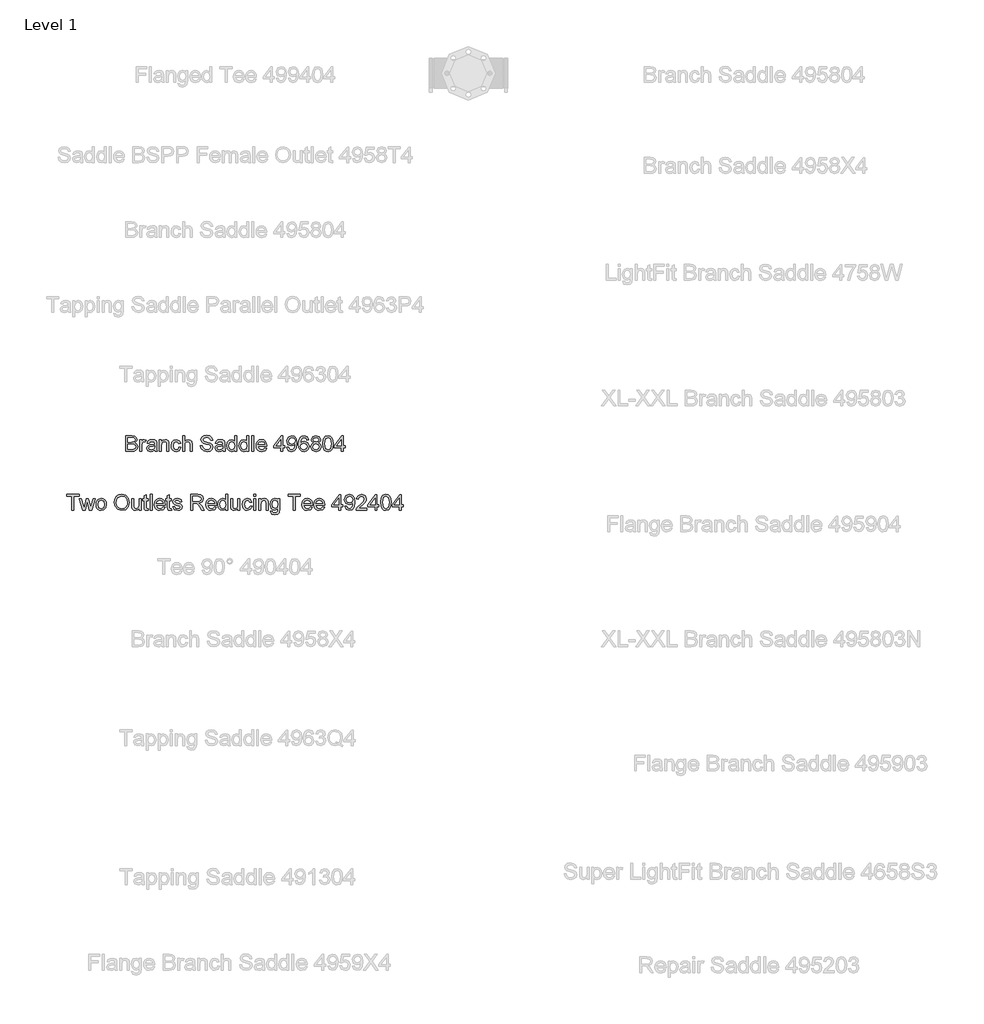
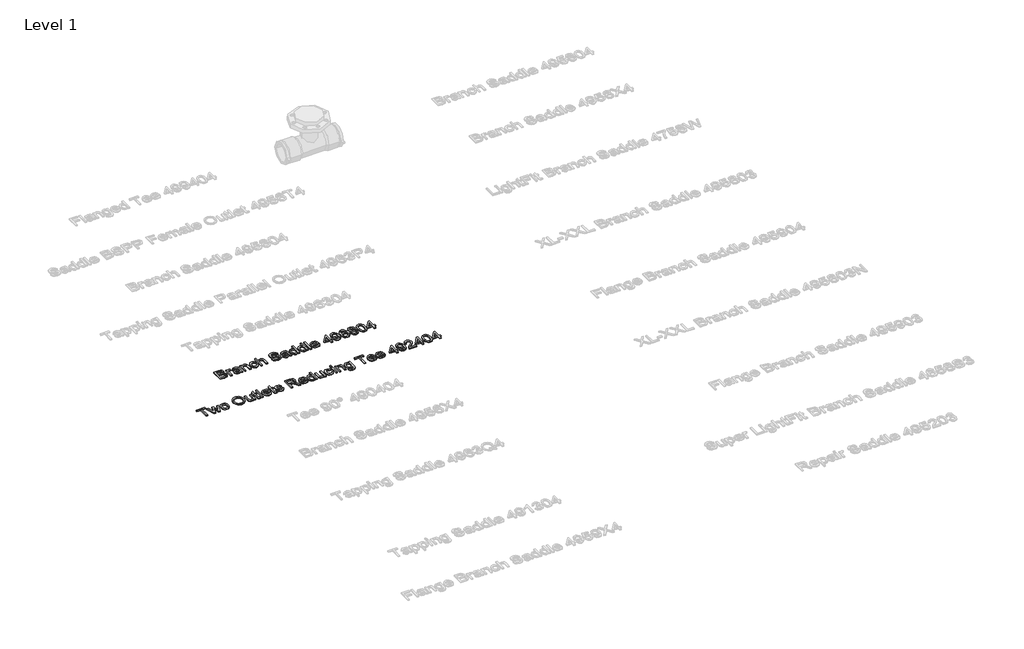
# One storey, part 6 of 41: 2 proxies.
"""IFC4 building model written with IfcOpenShell, lengths in millimetres."""

from ifc_helpers import new_model, si_unit, origin, origin_with_axes, place, context, project, spatial, polyline, outline, extrude, element, save

model = new_model("IFC4")

# Units and contexts
model_context = context("Model", 3, world=origin())
ifc_project = project(units=[si_unit("LENGTHUNIT", "METRE", prefix="MILLI")], contexts=[model_context])

# Site, building, storey
site = spatial("IfcSite", under=ifc_project)
building = spatial("IfcBuilding", under=site)
storey = spatial("IfcBuildingStorey", under=building, Name="Level 1", Elevation=0.0)

# Proxies
placement = place(None, origin())
element("IfcBuildingElementProxy", 1, Name="100 mm Arial", ObjectType="100 mm Arial", at=placement, inside=storey, context=model_context, shape_type="SweptSolid", body=[
    extrude(outline(polyline([(6650.4423841, 3557.5779735), (6650.4423841, 3616.6548966), (6672.9856533, 3616.6548966), (6684.0265187, 3614.9169158), (6690.5457495, 3609.5731658), (6692.9039226, 3602.0154735), (6690.9207495, 3595.1140312), (6684.927961, 3589.8856658), (6692.2044033, 3584.3760505), (6694.7500764, 3575.1885505), (6693.0120956, 3567.2486466), (6688.7068072, 3561.5948005), (6682.2813264, 3558.5948005), (6672.8125764, 3557.5779735), (6650.4423841, 3557.5779735)]), holes=[polyline([(6657.8269995, 3564.9625889), (6672.9712303, 3564.9625889), (6678.4519995, 3565.2510505), (6683.0890187, 3566.8592235), (6686.1611341, 3570.1404735), (6687.365461, 3575.1164351), (6685.9519995, 3580.8568197), (6681.3726726, 3584.2823005), (6672.2500764, 3585.2702812), (6657.8269995, 3585.2702812), (6657.8269995, 3564.9625889)]), polyline([(6657.8269995, 3592.6548966), (6671.3125764, 3592.6548966), (6679.1875764, 3593.289512), (6683.9255572, 3596.0226851), (6685.5193072, 3600.8327812), (6684.0337303, 3605.6500889), (6679.7789226, 3608.4986466), (6670.288538, 3609.2702812), (6657.8269995, 3609.2702812), (6657.8269995, 3592.6548966)])]), origin_with_axes(), (0.0, 0.0, 1.0), 5.0),
    extrude(outline(polyline([(6703.9808456, 3557.5779735), (6703.9808456, 3600.9625889), (6710.4423841, 3600.9625889), (6710.4423841, 3594.5443197), (6715.0289226, 3600.4577812), (6719.6443072, 3601.8856658), (6727.0577687, 3599.6068197), (6724.5914226, 3592.9866274), (6719.3991149, 3594.5010505), (6715.2236341, 3593.0443197), (6712.5625764, 3589.0058582), (6711.365461, 3580.3808582), (6711.365461, 3557.5779735), (6703.9808456, 3557.5779735)])), origin_with_axes(), (0.0, 0.0, 1.0), 5.0),
    extrude(outline(polyline([(6759.365461, 3563.1164351), (6752.2044033, 3558.1116274), (6744.2933456, 3556.6548966), (6733.569788, 3560.1597043), (6729.8269995, 3569.1164351), (6731.240461, 3574.9577812), (6734.9544033, 3579.1981658), (6740.1250764, 3581.6212428), (6746.5144995, 3582.7318197), (6759.3221918, 3585.2702812), (6759.365461, 3586.914512), (6757.3318072, 3592.3664351), (6749.1683456, 3594.5010505), (6741.6971918, 3593.0803774), (6738.1346918, 3588.039512), (6730.7500764, 3588.9625889), (6733.944788, 3596.1741274), (6740.3774803, 3600.4000889), (6750.1202687, 3601.8856658), (6759.069788, 3600.5731658), (6764.1250764, 3597.2774928), (6766.3894995, 3592.2654735), (6766.7500764, 3585.8039351), (6766.7500764, 3576.6164351), (6767.1250764, 3563.7871082), (6768.5962303, 3557.5779735), (6761.2116149, 3557.5779735), (6759.365461, 3563.1164351)]), holes=[polyline([(6759.365461, 3577.8856658), (6747.4519995, 3575.6212428), (6741.0986341, 3574.4241274), (6738.2212303, 3572.477012), (6737.2116149, 3569.6356658), (6739.4111341, 3565.6404735), (6745.865461, 3564.039512), (6753.3366149, 3565.8063389), (6758.1539226, 3570.0827812), (6759.3221918, 3575.7943197), (6759.365461, 3577.8856658)])]), origin_with_axes(), (0.0, 0.0, 1.0), 5.0),
    extrude(outline(polyline([(6776.9039226, 3557.5779735), (6776.9039226, 3600.9625889), (6784.288538, 3600.9625889), (6784.288538, 3594.9048966), (6789.9351726, 3600.1404735), (6797.6443072, 3601.8856658), (6804.6178649, 3600.4794158), (6809.3774803, 3596.7871082), (6811.5914226, 3591.3568197), (6811.9808456, 3584.2173966), (6811.9808456, 3557.5779735), (6804.5962303, 3557.5779735), (6804.5962303, 3583.2222043), (6803.7452687, 3589.7558582), (6800.7380572, 3593.2101851), (6795.6683456, 3594.5010505), (6787.6563264, 3591.602012), (6784.288538, 3580.5972043), (6784.288538, 3557.5779735), (6776.9039226, 3557.5779735)])), origin_with_axes(), (0.0, 0.0, 1.0), 5.0),
    extrude(outline(polyline([(6849.8269995, 3573.2702812), (6857.2116149, 3572.3472043), (6851.2837303, 3560.8159543), (6839.5721918, 3556.6548966), (6831.7170235, 3558.1062187), (6825.5745956, 3562.4601851), (6821.6100524, 3569.5256899), (6820.288538, 3579.1116274), (6822.5457495, 3591.3784543), (6829.4255572, 3599.2606658), (6839.4712303, 3601.8856658), (6850.6995956, 3598.2798966), (6856.288538, 3588.039512), (6848.9039226, 3587.1164351), (6845.4784418, 3592.6476851), (6839.5289226, 3594.5010505), (6830.9688264, 3590.852012), (6827.6731533, 3579.3135505), (6830.896711, 3567.6669158), (6839.3269995, 3564.039512), (6846.2861341, 3566.3039351), (6849.8269995, 3573.2702812)])), origin_with_axes(), (0.0, 0.0, 1.0), 5.0),
    extrude(outline(polyline([(6863.6731533, 3557.5779735), (6863.6731533, 3616.6548966), (6871.0577687, 3616.6548966), (6871.0577687, 3594.9337428), (6876.8161822, 3600.1476851), (6883.9087303, 3601.8856658), (6892.2019995, 3599.9890312), (6897.2356533, 3594.7462428), (6898.7500764, 3585.039512), (6898.7500764, 3557.5779735), (6891.365461, 3557.5779735), (6891.365461, 3584.2750889), (6889.0144995, 3592.0635505), (6882.351038, 3594.5010505), (6876.3005572, 3592.8568197), (6872.2620956, 3588.4000889), (6871.0577687, 3580.6260505), (6871.0577687, 3557.5779735), (6863.6731533, 3557.5779735)])), origin_with_axes(), (0.0, 0.0, 1.0), 5.0),
    extrude(outline(polyline([(6930.1346918, 3577.8856658), (6937.5193072, 3577.8856658), (6939.8991149, 3570.4938389), (6945.7116149, 3565.820762), (6954.5673841, 3564.039512), (6962.2837303, 3565.3880697), (6967.2669033, 3569.0948005), (6968.9039226, 3574.0491274), (6967.677961, 3578.6573005), (6962.6587303, 3582.0106658), (6951.9063264, 3584.8303774), (6940.3318072, 3588.4722043), (6934.0505572, 3593.9673966), (6931.9808456, 3601.3087428), (6934.5409418, 3609.6669158), (6942.0193072, 3615.5659543), (6952.9664226, 3617.5779735), (6964.6491149, 3615.4722043), (6972.4375764, 3609.2847043), (6975.365461, 3600.039512), (6967.9808456, 3600.039512), (6963.7981533, 3607.6260505), (6953.2548841, 3610.1933582), (6942.6827687, 3607.6548966), (6939.365461, 3601.5250889), (6941.7164226, 3596.4048966), (6953.7741149, 3592.2798966), (6966.8414226, 3588.5731658), (6973.9880572, 3582.5875889), (6976.288538, 3574.2366274), (6973.6419033, 3565.4024928), (6966.0265187, 3558.9553774), (6954.8558456, 3556.6548966), (6941.6659418, 3559.1356658), (6933.3221918, 3566.6068197), (6930.1346918, 3577.8856658)])), origin_with_axes(), (0.0, 0.0, 1.0), 5.0),
    extrude(outline(polyline([(7014.1346918, 3563.1164351), (7006.9736341, 3558.1116274), (6999.0625764, 3556.6548966), (6988.3390187, 3560.1597043), (6984.5962303, 3569.1164351), (6986.0096918, 3574.9577812), (6989.7236341, 3579.1981658), (6994.8943072, 3581.6212428), (7001.2837303, 3582.7318197), (7014.0914226, 3585.2702812), (7014.1346918, 3586.914512), (7012.101038, 3592.3664351), (7003.9375764, 3594.5010505), (6996.4664226, 3593.0803774), (6992.9039226, 3588.039512), (6985.5193072, 3588.9625889), (6988.7140187, 3596.1741274), (6995.146711, 3600.4000889), (7004.8894995, 3601.8856658), (7013.8390187, 3600.5731658), (7018.8943072, 3597.2774928), (7021.1587303, 3592.2654735), (7021.5193072, 3585.8039351), (7021.5193072, 3576.6164351), (7021.8943072, 3563.7871082), (7023.365461, 3557.5779735), (7015.9808456, 3557.5779735), (7014.1346918, 3563.1164351)]), holes=[polyline([(7014.1346918, 3577.8856658), (7002.2212303, 3575.6212428), (6995.8678649, 3574.4241274), (6992.990461, 3572.477012), (6991.9808456, 3569.6356658), (6994.1803649, 3565.6404735), (7000.6346918, 3564.039512), (7008.1058456, 3565.8063389), (7012.9231533, 3570.0827812), (7014.0914226, 3575.7943197), (7014.1346918, 3577.8856658)])]), origin_with_axes(), (0.0, 0.0, 1.0), 5.0),
    extrude(outline(polyline([(7058.4423841, 3557.5779735), (7058.4423841, 3564.5443197), (7053.5565668, 3558.6272524), (7046.802961, 3556.6548966), (7037.6587303, 3559.5106658), (7031.1971918, 3567.4794158), (7028.9039226, 3579.227012), (7031.0169033, 3590.9818197), (7037.3486341, 3599.0731658), (7046.7741149, 3601.8856658), (7053.5818072, 3599.8736466), (7058.4423841, 3594.6452812), (7058.4423841, 3616.6548966), (7065.8269995, 3616.6548966), (7065.8269995, 3557.5779735), (7058.4423841, 3557.5779735)]), holes=[polyline([(7036.288538, 3579.2558582), (7039.6202687, 3567.8255697), (7047.4808456, 3564.039512), (7055.2476726, 3567.6524928), (7058.4423841, 3578.6933582), (7055.1899803, 3590.6789351), (7047.177961, 3594.5010505), (7039.4039226, 3590.8303774), (7036.288538, 3579.2558582)])]), origin_with_axes(), (0.0, 0.0, 1.0), 5.0),
    extrude(outline(polyline([(7103.6731533, 3557.5779735), (7103.6731533, 3564.5443197), (7098.787336, 3558.6272524), (7092.0337303, 3556.6548966), (7082.8894995, 3559.5106658), (7076.427961, 3567.4794158), (7074.1346918, 3579.227012), (7076.2476726, 3590.9818197), (7082.5794033, 3599.0731658), (7092.0048841, 3601.8856658), (7098.8125764, 3599.8736466), (7103.6731533, 3594.6452812), (7103.6731533, 3616.6548966), (7111.0577687, 3616.6548966), (7111.0577687, 3557.5779735), (7103.6731533, 3557.5779735)]), holes=[polyline([(7081.5193072, 3579.2558582), (7084.851038, 3567.8255697), (7092.7116149, 3564.039512), (7100.4784418, 3567.6524928), (7103.6731533, 3578.6933582), (7100.4207495, 3590.6789351), (7092.4087303, 3594.5010505), (7084.6346918, 3590.8303774), (7081.5193072, 3579.2558582)])]), origin_with_axes(), (0.0, 0.0, 1.0), 5.0),
    extrude(outline(polyline([(7122.1346918, 3557.5779735), (7122.1346918, 3616.6548966), (7129.5193072, 3616.6548966), (7129.5193072, 3557.5779735), (7122.1346918, 3557.5779735)])), origin_with_axes(), (0.0, 0.0, 1.0), 5.0),
    extrude(outline(polyline([(7170.9712303, 3570.5010505), (7178.2116149, 3569.5779735), (7171.4399803, 3560.0443197), (7158.8269995, 3556.6548966), (7150.162336, 3558.117036), (7143.4952687, 3562.5034543), (7139.2440668, 3569.5292957), (7137.8269995, 3578.9097043), (7139.2584899, 3588.6056178), (7143.552961, 3595.8568197), (7150.1298841, 3600.3784543), (7158.4087303, 3601.8856658), (7166.4297639, 3600.3820601), (7172.8390187, 3595.8712428), (7177.0415428, 3588.6344639), (7178.4423841, 3578.9529735), (7178.3991149, 3576.9625889), (7145.2116149, 3576.9625889), (7149.459211, 3567.3712428), (7158.9712303, 3564.039512), (7166.2116149, 3565.5827812), (7170.9712303, 3570.5010505)]), holes=[polyline([(7145.2116149, 3584.3472043), (7171.0577687, 3584.3472043), (7168.101038, 3591.039512), (7158.3798841, 3594.5010505), (7149.2861341, 3591.7390312), (7145.2116149, 3584.3472043)])]), origin_with_axes(), (0.0, 0.0, 1.0), 5.0),
    extrude(outline(polyline([(7231.0577687, 3557.5779735), (7231.0577687, 3571.4241274), (7204.288538, 3571.4241274), (7204.288538, 3578.8087428), (7232.9039226, 3615.7318197), (7238.4423841, 3615.7318197), (7238.4423841, 3578.8087428), (7245.8269995, 3578.8087428), (7245.8269995, 3571.4241274), (7238.4423841, 3571.4241274), (7238.4423841, 3557.5779735), (7231.0577687, 3557.5779735)]), holes=[polyline([(7231.0577687, 3578.8087428), (7231.0577687, 3601.6260505), (7213.3750764, 3578.8087428), (7231.0577687, 3578.8087428)])]), origin_with_axes(), (0.0, 0.0, 1.0), 5.0),
    extrude(outline(polyline([(7253.2116149, 3572.3472043), (7260.5962303, 3573.2702812), (7263.913538, 3566.2246082), (7270.2019995, 3564.039512), (7276.1803649, 3565.445762), (7280.2332495, 3569.2029735), (7282.6491149, 3575.6212428), (7283.7164226, 3584.1885505), (7277.7669033, 3580.0347043), (7269.6683456, 3577.8856658), (7257.3294033, 3583.1356658), (7252.288538, 3596.9673966), (7257.5745956, 3611.2462428), (7270.8221918, 3616.6548966), (7281.3438264, 3613.5683582), (7288.584211, 3604.7702812), (7291.0577687, 3588.2414351), (7288.5914226, 3570.3063389), (7281.257288, 3560.1452812), (7269.8558456, 3556.6548966), (7258.5048841, 3560.7726851), (7253.2116149, 3572.3472043)]), holes=[polyline([(7283.6731533, 3597.1404735), (7280.4856533, 3605.9962428), (7272.0193072, 3609.2702812), (7263.1346918, 3605.7438389), (7259.6731533, 3596.6068197), (7262.9471918, 3588.4217235), (7271.8173841, 3585.2702812), (7280.334211, 3588.4217235), (7283.6731533, 3597.1404735)])]), origin_with_axes(), (0.0, 0.0, 1.0), 5.0),
    extrude(outline(polyline([(7335.365461, 3600.9625889), (7327.9808456, 3600.039512), (7325.1827687, 3606.1981658), (7317.7837303, 3609.2702812), (7311.1202687, 3607.4818197), (7306.0794033, 3600.7678774), (7303.9808456, 3587.6068197), (7310.4928649, 3593.4986466), (7318.5625764, 3595.4241274), (7331.1106533, 3590.1597043), (7336.288538, 3576.5587428), (7333.851038, 3566.3688389), (7327.1443072, 3559.1573005), (7317.4664226, 3556.6548966), (7309.0884178, 3558.3135505), (7302.4159418, 3563.289512), (7298.0511581, 3572.0731658), (7296.5962303, 3585.1548966), (7298.2116149, 3599.8628293), (7303.0577687, 3609.9193197), (7309.6743553, 3614.9710024), (7318.2452687, 3616.6548966), (7329.913538, 3612.4866274), (7335.365461, 3600.9625889)]), holes=[polyline([(7303.9808456, 3576.6741274), (7305.6899803, 3570.2774928), (7310.2332495, 3565.633262), (7316.8894995, 3564.039512), (7325.5938264, 3567.3423966), (7328.9039226, 3576.3135505), (7325.6370956, 3584.9024928), (7316.5866149, 3588.039512), (7307.6515187, 3584.9024928), (7303.9808456, 3576.6741274)])]), origin_with_axes(), (0.0, 0.0, 1.0), 5.0),
    extrude(outline(polyline([(7353.5096918, 3590.1164351), (7346.7813264, 3594.7029735), (7344.5962303, 3601.8423966), (7349.3558456, 3612.3856658), (7362.0337303, 3616.6548966), (7374.8269995, 3612.2847043), (7379.6731533, 3601.6404735), (7377.5169033, 3594.6813389), (7370.976038, 3590.1164351), (7378.8294033, 3584.3255697), (7381.5193072, 3574.7702812), (7376.1827687, 3561.8760505), (7362.1346918, 3556.6548966), (7348.0866149, 3561.8976851), (7342.7500764, 3574.9722043), (7345.5481533, 3584.7510505), (7353.5096918, 3590.1164351)]), holes=[polyline([(7351.9808456, 3601.6260505), (7354.5986341, 3595.8279735), (7362.2212303, 3593.5779735), (7369.6923841, 3595.8135505), (7372.288538, 3601.2943197), (7369.6058456, 3606.9698005), (7362.1346918, 3609.2702812), (7354.6419033, 3607.0202812), (7351.9808456, 3601.6260505)]), polyline([(7350.1346918, 3575.2318197), (7351.3678649, 3569.6717235), (7355.7308456, 3565.5106658), (7362.1923841, 3564.039512), (7370.990461, 3567.133262), (7374.1346918, 3575.0010505), (7370.8894995, 3583.0202812), (7361.9471918, 3586.1933582), (7353.257288, 3583.0635505), (7350.1346918, 3575.2318197)])]), origin_with_axes(), (0.0, 0.0, 1.0), 5.0),
    extrude(outline(polyline([(7387.9808456, 3586.6404735), (7390.1515187, 3603.6380697), (7396.5986341, 3613.4385505), (7407.365461, 3616.6548966), (7415.990461, 3614.7510505), (7421.9471918, 3609.2630697), (7425.4087303, 3600.5226851), (7426.7500764, 3586.6404735), (7424.601038, 3569.7149928), (7418.1755572, 3559.8928774), (7407.365461, 3556.6548966), (7399.6923841, 3558.0611466), (7393.865461, 3562.2798966), (7389.4519995, 3572.2714832), (7387.9808456, 3586.6404735)]), holes=[polyline([(7395.365461, 3586.6548966), (7398.8269995, 3568.3159543), (7407.365461, 3564.039512), (7415.9039226, 3568.3303774), (7419.365461, 3586.6548966), (7416.0193072, 3604.7847043), (7407.2789226, 3609.2702812), (7398.9423841, 3605.3183582), (7395.365461, 3586.6548966)])]), origin_with_axes(), (0.0, 0.0, 1.0), 5.0),
    extrude(outline(polyline([(7457.2116149, 3557.5779735), (7457.2116149, 3571.4241274), (7430.4423841, 3571.4241274), (7430.4423841, 3578.8087428), (7459.0577687, 3615.7318197), (7464.5962303, 3615.7318197), (7464.5962303, 3578.8087428), (7471.9808456, 3578.8087428), (7471.9808456, 3571.4241274), (7464.5962303, 3571.4241274), (7464.5962303, 3557.5779735), (7457.2116149, 3557.5779735)]), holes=[polyline([(7457.2116149, 3578.8087428), (7457.2116149, 3601.6260505), (7439.5289226, 3578.8087428), (7457.2116149, 3578.8087428)])]), origin_with_axes(), (0.0, 0.0, 1.0), 5.0),
])
element("IfcBuildingElementProxy", 2, Name="100 mm Arial", ObjectType="100 mm Arial", at=placement, inside=storey, context=model_context, shape_type="SweptSolid", body=[
    extrude(outline(polyline([(6449.2116149, 3337.5779735), (6449.2116149, 3389.2702812), (6429.8269995, 3389.2702812), (6429.8269995, 3396.6548966), (6475.9808456, 3396.6548966), (6475.9808456, 3389.2702812), (6456.5962303, 3389.2702812), (6456.5962303, 3337.5779735), (6449.2116149, 3337.5779735)])), origin_with_axes(), (0.0, 0.0, 1.0), 5.0),
    extrude(outline(polyline([(6490.5625764, 3337.5779735), (6477.365461, 3380.9625889), (6485.038538, 3380.9625889), (6492.5241149, 3355.6500889), (6494.7596918, 3346.6068197), (6496.5914226, 3355.3183582), (6502.5481533, 3380.9625889), (6511.3462303, 3380.9625889), (6517.2741149, 3355.3904735), (6518.9039226, 3347.5010505), (6521.240461, 3355.8231658), (6528.740461, 3380.9625889), (6536.4423841, 3380.9625889), (6523.1443072, 3337.5779735), (6514.2164226, 3337.5779735), (6508.5481533, 3363.0202812), (6506.9039226, 3370.9529735), (6499.5914226, 3337.5779735), (6490.5625764, 3337.5779735)])), origin_with_axes(), (0.0, 0.0, 1.0), 5.0),
    extrude(outline(polyline([(6539.6731533, 3359.2702812), (6541.2705091, 3369.7306178), (6546.0625764, 3377.0827812), (6559.0721918, 3381.8856658), (6566.8300043, 3380.4235264), (6573.0265187, 3376.0371082), (6577.0884178, 3369.0725649), (6578.4423841, 3359.8760505), (6576.0481533, 3346.7366274), (6569.0745956, 3339.3015312), (6559.0721918, 3336.6548966), (6551.2206293, 3338.1116274), (6545.0313264, 3342.4818197), (6541.0126966, 3349.5923966), (6539.6731533, 3359.2702812)]), holes=[polyline([(6547.0577687, 3359.2847043), (6550.476038, 3347.8399928), (6559.0721918, 3344.039512), (6567.6394995, 3347.8616274), (6571.0577687, 3359.5154735), (6567.6178649, 3370.7005697), (6559.0721918, 3374.5010505), (6550.476038, 3370.7149928), (6547.0577687, 3359.2847043)])]), origin_with_axes(), (0.0, 0.0, 1.0), 5.0),
    extrude(outline(polyline([(6607.9808456, 3366.3375889), (6609.9495956, 3379.4012908), (6615.8558456, 3389.2847043), (6624.8738745, 3395.5046562), (6636.177961, 3397.5779735), (6650.8750764, 3393.6837428), (6660.8558456, 3382.8231658), (6664.288538, 3367.0154735), (6660.6755572, 3350.9914351), (6650.4351726, 3340.289512), (6636.1346918, 3336.6548966), (6621.2789226, 3340.6717235), (6611.3558456, 3351.633262), (6607.9808456, 3366.3375889)]), holes=[polyline([(6615.365461, 3366.2654735), (6616.8420235, 3357.023887), (6621.271711, 3349.9818197), (6627.9297639, 3345.5250889), (6636.0914226, 3344.039512), (6644.3720716, 3345.539512), (6651.0409418, 3350.039512), (6655.4381774, 3357.2979255), (6656.9039226, 3367.0731658), (6654.3943072, 3379.2606658), (6647.0601726, 3387.3303774), (6636.2212303, 3390.1933582), (6621.5241149, 3384.6765312), (6616.9051245, 3377.3153533), (6615.365461, 3366.2654735)])]), origin_with_axes(), (0.0, 0.0, 1.0), 5.0),
    extrude(outline(polyline([(6701.2116149, 3337.5779735), (6701.2116149, 3345.0347043), (6695.427961, 3338.7498485), (6687.8846918, 3336.6548966), (6680.9399803, 3338.1260505), (6676.1515187, 3341.8183582), (6673.9519995, 3347.2558582), (6673.5193072, 3354.1212428), (6673.5193072, 3380.9625889), (6680.9039226, 3380.9625889), (6680.9039226, 3357.5972043), (6681.351038, 3350.0683582), (6684.271711, 3345.6476851), (6689.7741149, 3344.039512), (6695.9399803, 3345.6837428), (6700.0144995, 3350.1621082), (6701.2116149, 3358.3904735), (6701.2116149, 3380.9625889), (6708.5962303, 3380.9625889), (6708.5962303, 3337.5779735), (6701.2116149, 3337.5779735)])), origin_with_axes(), (0.0, 0.0, 1.0), 5.0),
    extrude(outline(polyline([(6734.4423841, 3343.7366274), (6735.365461, 3337.3616274), (6729.8414226, 3336.6548966), (6723.6539226, 3337.8808582), (6720.5673841, 3341.0972043), (6719.6731533, 3349.477012), (6719.6731533, 3373.5779735), (6714.1346918, 3373.5779735), (6714.1346918, 3380.9625889), (6719.6731533, 3380.9625889), (6719.6731533, 3391.5058582), (6727.0577687, 3395.8472043), (6727.0577687, 3380.9625889), (6734.4423841, 3380.9625889), (6734.4423841, 3373.5779735), (6727.0577687, 3373.5779735), (6727.0577687, 3349.6933582), (6727.4471918, 3345.8856658), (6728.709211, 3344.5371082), (6731.226038, 3344.039512), (6734.4423841, 3343.7366274)])), origin_with_axes(), (0.0, 0.0, 1.0), 5.0),
    extrude(outline(polyline([(6741.8269995, 3337.5779735), (6741.8269995, 3396.6548966), (6749.2116149, 3396.6548966), (6749.2116149, 3337.5779735), (6741.8269995, 3337.5779735)])), origin_with_axes(), (0.0, 0.0, 1.0), 5.0),
    extrude(outline(polyline([(6790.663538, 3350.5010505), (6797.9039226, 3349.5779735), (6791.132288, 3340.0443197), (6778.5193072, 3336.6548966), (6769.8546437, 3338.117036), (6763.1875764, 3342.5034543), (6758.9363745, 3349.5292957), (6757.5193072, 3358.9097043), (6758.9507976, 3368.6056178), (6763.2452687, 3375.8568197), (6769.8221918, 3380.3784543), (6778.101038, 3381.8856658), (6786.1220716, 3380.3820601), (6792.5313264, 3375.8712428), (6796.7338505, 3368.6344639), (6798.1346918, 3358.9529735), (6798.0914226, 3356.9625889), (6764.9039226, 3356.9625889), (6769.1515187, 3347.3712428), (6778.663538, 3344.039512), (6785.9039226, 3345.5827812), (6790.663538, 3350.5010505)]), holes=[polyline([(6764.9039226, 3364.3472043), (6790.7500764, 3364.3472043), (6787.7933456, 3371.039512), (6778.0721918, 3374.5010505), (6768.9784418, 3371.7390312), (6764.9039226, 3364.3472043)])]), origin_with_axes(), (0.0, 0.0, 1.0), 5.0),
    extrude(outline(polyline([(6821.2116149, 3343.7366274), (6822.1346918, 3337.3616274), (6816.6106533, 3336.6548966), (6810.4231533, 3337.8808582), (6807.3366149, 3341.0972043), (6806.4423841, 3349.477012), (6806.4423841, 3373.5779735), (6800.9039226, 3373.5779735), (6800.9039226, 3380.9625889), (6806.4423841, 3380.9625889), (6806.4423841, 3391.5058582), (6813.8269995, 3395.8472043), (6813.8269995, 3380.9625889), (6821.2116149, 3380.9625889), (6821.2116149, 3373.5779735), (6813.8269995, 3373.5779735), (6813.8269995, 3349.6933582), (6814.2164226, 3345.8856658), (6815.4784418, 3344.5371082), (6817.9952687, 3344.039512), (6821.2116149, 3343.7366274)])), origin_with_axes(), (0.0, 0.0, 1.0), 5.0),
    extrude(outline(polyline([(6825.8269995, 3350.5010505), (6833.2116149, 3351.4241274), (6836.6298841, 3345.9433582), (6844.4616149, 3344.039512), (6851.990461, 3345.7847043), (6854.4423841, 3349.8808582), (6851.976038, 3353.1981658), (6844.3750764, 3355.3039351), (6833.2548841, 3358.9169158), (6828.4015187, 3363.1356658), (6826.7500764, 3369.0923966), (6828.0769995, 3374.5948005), (6831.6971918, 3378.7991274), (6836.3919033, 3380.9842235), (6842.7452687, 3381.8856658), (6851.7308456, 3380.4361466), (6857.4423841, 3376.5130697), (6859.9808456, 3369.8856658), (6852.5962303, 3368.9625889), (6849.819788, 3373.0371082), (6843.3221918, 3374.5010505), (6836.2548841, 3373.102012), (6834.1346918, 3369.8423966), (6835.0144995, 3367.6933582), (6837.7693072, 3366.0635505), (6844.1298841, 3364.4914351), (6854.9688264, 3361.0154735), (6860.0024803, 3357.0779735), (6861.8269995, 3350.6597043), (6859.6851726, 3343.5923966), (6853.5048841, 3338.4649928), (6844.3606533, 3336.6548966), (6831.4808456, 3340.1452812), (6825.8269995, 3350.5010505)])), origin_with_axes(), (0.0, 0.0, 1.0), 5.0),
    extrude(outline(polyline([(6894.1346918, 3337.5779735), (6894.1346918, 3396.6548966), (6919.5914226, 3396.6548966), (6931.4111341, 3395.0611466), (6937.8726726, 3389.4217235), (6940.288538, 3380.4866274), (6936.2861341, 3369.8423966), (6923.9183456, 3364.3472043), (6928.115461, 3361.1885505), (6934.101038, 3353.5875889), (6943.9519995, 3337.5779735), (6935.3702687, 3337.5779735), (6927.6827687, 3349.8231658), (6922.1298841, 3357.9289351), (6918.2284418, 3361.758262), (6914.7164226, 3363.164512), (6910.4327687, 3363.4241274), (6901.5193072, 3363.4241274), (6901.5193072, 3337.5779735), (6894.1346918, 3337.5779735)]), holes=[polyline([(6901.5193072, 3370.8087428), (6918.0481533, 3370.8087428), (6926.4784418, 3371.8544158), (6931.2669033, 3375.2005697), (6932.9039226, 3380.2125889), (6929.7813264, 3386.7173966), (6919.9087303, 3389.2702812), (6901.5193072, 3389.2702812), (6901.5193072, 3370.8087428)])]), origin_with_axes(), (0.0, 0.0, 1.0), 5.0),
    extrude(outline(polyline([(6982.663538, 3350.5010505), (6989.9039226, 3349.5779735), (6983.132288, 3340.0443197), (6970.5193072, 3336.6548966), (6961.8546437, 3338.117036), (6955.1875764, 3342.5034543), (6950.9363745, 3349.5292957), (6949.5193072, 3358.9097043), (6950.9507976, 3368.6056178), (6955.2452687, 3375.8568197), (6961.8221918, 3380.3784543), (6970.101038, 3381.8856658), (6978.1220716, 3380.3820601), (6984.5313264, 3375.8712428), (6988.7338505, 3368.6344639), (6990.1346918, 3358.9529735), (6990.0914226, 3356.9625889), (6956.9039226, 3356.9625889), (6961.1515187, 3347.3712428), (6970.663538, 3344.039512), (6977.9039226, 3345.5827812), (6982.663538, 3350.5010505)]), holes=[polyline([(6956.9039226, 3364.3472043), (6982.7500764, 3364.3472043), (6979.7933456, 3371.039512), (6970.0721918, 3374.5010505), (6960.9784418, 3371.7390312), (6956.9039226, 3364.3472043)])]), origin_with_axes(), (0.0, 0.0, 1.0), 5.0),
    extrude(outline(polyline([(7024.288538, 3337.5779735), (7024.288538, 3344.5443197), (7019.4027206, 3338.6272524), (7012.6491149, 3336.6548966), (7003.5048841, 3339.5106658), (6997.0433456, 3347.4794158), (6994.7500764, 3359.227012), (6996.8630572, 3370.9818197), (7003.194788, 3379.0731658), (7012.6202687, 3381.8856658), (7019.427961, 3379.8736466), (7024.288538, 3374.6452812), (7024.288538, 3396.6548966), (7031.6731533, 3396.6548966), (7031.6731533, 3337.5779735), (7024.288538, 3337.5779735)]), holes=[polyline([(7002.1346918, 3359.2558582), (7005.4664226, 3347.8255697), (7013.3269995, 3344.039512), (7021.0938264, 3347.6524928), (7024.288538, 3358.6933582), (7021.0361341, 3370.6789351), (7013.0241149, 3374.5010505), (7005.2500764, 3370.8303774), (7002.1346918, 3359.2558582)])]), origin_with_axes(), (0.0, 0.0, 1.0), 5.0),
    extrude(outline(polyline([(7070.4423841, 3337.5779735), (7070.4423841, 3345.0347043), (7064.6587303, 3338.7498485), (7057.115461, 3336.6548966), (7050.1707495, 3338.1260505), (7045.382288, 3341.8183582), (7043.1827687, 3347.2558582), (7042.7500764, 3354.1212428), (7042.7500764, 3380.9625889), (7050.1346918, 3380.9625889), (7050.1346918, 3357.5972043), (7050.5818072, 3350.0683582), (7053.5024803, 3345.6476851), (7059.0048841, 3344.039512), (7065.1707495, 3345.6837428), (7069.2452687, 3350.1621082), (7070.4423841, 3358.3904735), (7070.4423841, 3380.9625889), (7077.8269995, 3380.9625889), (7077.8269995, 3337.5779735), (7070.4423841, 3337.5779735)])), origin_with_axes(), (0.0, 0.0, 1.0), 5.0),
    extrude(outline(polyline([(7115.6731533, 3353.2702812), (7123.0577687, 3352.3472043), (7117.1298841, 3340.8159543), (7105.4183456, 3336.6548966), (7097.5631774, 3338.1062187), (7091.4207495, 3342.4601851), (7087.4562062, 3349.5256899), (7086.1346918, 3359.1116274), (7088.3919033, 3371.3784543), (7095.271711, 3379.2606658), (7105.3173841, 3381.8856658), (7116.5457495, 3378.2798966), (7122.1346918, 3368.039512), (7114.7500764, 3367.1164351), (7111.3245956, 3372.6476851), (7105.3750764, 3374.5010505), (7096.8149803, 3370.852012), (7093.5193072, 3359.3135505), (7096.7428649, 3347.6669158), (7105.1731533, 3344.039512), (7112.132288, 3346.3039351), (7115.6731533, 3353.2702812)])), origin_with_axes(), (0.0, 0.0, 1.0), 5.0),
    extrude(outline(polyline([(7129.5193072, 3337.5779735), (7129.5193072, 3380.9625889), (7136.9039226, 3380.9625889), (7136.9039226, 3337.5779735), (7129.5193072, 3337.5779735)])), origin_with_axes(), (0.0, 0.0, 1.0), 5.0),
    extrude(outline(polyline([(7129.5193072, 3389.2702812), (7129.5193072, 3396.6548966), (7136.9039226, 3396.6548966), (7136.9039226, 3389.2702812), (7129.5193072, 3389.2702812)])), origin_with_axes(), (0.0, 0.0, 1.0), 5.0),
    extrude(outline(polyline([(7147.9808456, 3337.5779735), (7147.9808456, 3380.9625889), (7155.365461, 3380.9625889), (7155.365461, 3374.9048966), (7161.0120956, 3380.1404735), (7168.7212303, 3381.8856658), (7175.694788, 3380.4794158), (7180.4544033, 3376.7871082), (7182.6683456, 3371.3568197), (7183.0577687, 3364.2173966), (7183.0577687, 3337.5779735), (7175.6731533, 3337.5779735), (7175.6731533, 3363.2222043), (7174.8221918, 3369.7558582), (7171.8149803, 3373.2101851), (7166.7452687, 3374.5010505), (7158.7332495, 3371.602012), (7155.365461, 3360.5972043), (7155.365461, 3337.5779735), (7147.9808456, 3337.5779735)])), origin_with_axes(), (0.0, 0.0, 1.0), 5.0),
    extrude(outline(polyline([(7191.365461, 3333.8856658), (7198.7500764, 3332.9625889), (7201.1443072, 3329.0683582), (7208.3125764, 3327.4241274), (7215.8702687, 3329.2847043), (7219.476038, 3334.5058582), (7219.9808456, 3343.1164351), (7208.4423841, 3337.5779735), (7200.8288024, 3339.1897524), (7195.1515187, 3344.0250889), (7190.4423841, 3359.4866274), (7192.5553649, 3370.9313389), (7198.6707495, 3379.0298966), (7208.0818072, 3381.8856658), (7214.6695476, 3380.2702812), (7219.9808456, 3375.4241274), (7219.9808456, 3380.9625889), (7227.365461, 3380.9625889), (7227.365461, 3343.5058582), (7225.3462303, 3329.1621082), (7218.9495956, 3322.4914351), (7208.1683456, 3320.039512), (7195.8870956, 3323.4938389), (7191.365461, 3333.8856658)]), holes=[polyline([(7197.8269995, 3359.9914351), (7200.9784418, 3348.5611466), (7208.8894995, 3344.9625889), (7216.7861341, 3348.539512), (7219.9808456, 3359.7750889), (7216.6923841, 3370.7871082), (7208.7741149, 3374.5010505), (7201.021711, 3370.8448005), (7197.8269995, 3359.9914351)])]), origin_with_axes(), (0.0, 0.0, 1.0), 5.0),
    extrude(outline(polyline([(7277.2116149, 3337.5779735), (7277.2116149, 3389.2702812), (7257.8269995, 3389.2702812), (7257.8269995, 3396.6548966), (7303.9808456, 3396.6548966), (7303.9808456, 3389.2702812), (7284.5962303, 3389.2702812), (7284.5962303, 3337.5779735), (7277.2116149, 3337.5779735)])), origin_with_axes(), (0.0, 0.0, 1.0), 5.0),
    extrude(outline(polyline([(7341.740461, 3350.5010505), (7348.9808456, 3349.5779735), (7342.209211, 3340.0443197), (7329.5962303, 3336.6548966), (7320.9315668, 3338.117036), (7314.2644995, 3342.5034543), (7310.0132976, 3349.5292957), (7308.5962303, 3358.9097043), (7310.0277206, 3368.6056178), (7314.3221918, 3375.8568197), (7320.8991149, 3380.3784543), (7329.177961, 3381.8856658), (7337.1989947, 3380.3820601), (7343.6082495, 3375.8712428), (7347.8107735, 3368.6344639), (7349.2116149, 3358.9529735), (7349.1683456, 3356.9625889), (7315.9808456, 3356.9625889), (7320.2284418, 3347.3712428), (7329.740461, 3344.039512), (7336.9808456, 3345.5827812), (7341.740461, 3350.5010505)]), holes=[polyline([(7315.9808456, 3364.3472043), (7341.8269995, 3364.3472043), (7338.8702687, 3371.039512), (7329.1491149, 3374.5010505), (7320.0553649, 3371.7390312), (7315.9808456, 3364.3472043)])]), origin_with_axes(), (0.0, 0.0, 1.0), 5.0),
    extrude(outline(polyline([(7386.9712303, 3350.5010505), (7394.2116149, 3349.5779735), (7387.4399803, 3340.0443197), (7374.8269995, 3336.6548966), (7366.162336, 3338.117036), (7359.4952687, 3342.5034543), (7355.2440668, 3349.5292957), (7353.8269995, 3358.9097043), (7355.2584899, 3368.6056178), (7359.552961, 3375.8568197), (7366.1298841, 3380.3784543), (7374.4087303, 3381.8856658), (7382.4297639, 3380.3820601), (7388.8390187, 3375.8712428), (7393.0415428, 3368.6344639), (7394.4423841, 3358.9529735), (7394.3991149, 3356.9625889), (7361.2116149, 3356.9625889), (7365.459211, 3347.3712428), (7374.9712303, 3344.039512), (7382.2116149, 3345.5827812), (7386.9712303, 3350.5010505)]), holes=[polyline([(7361.2116149, 3364.3472043), (7387.0577687, 3364.3472043), (7384.101038, 3371.039512), (7374.3798841, 3374.5010505), (7365.2861341, 3371.7390312), (7361.2116149, 3364.3472043)])]), origin_with_axes(), (0.0, 0.0, 1.0), 5.0),
    extrude(outline(polyline([(7447.0577687, 3337.5779735), (7447.0577687, 3351.4241274), (7420.288538, 3351.4241274), (7420.288538, 3358.8087428), (7448.9039226, 3395.7318197), (7454.4423841, 3395.7318197), (7454.4423841, 3358.8087428), (7461.8269995, 3358.8087428), (7461.8269995, 3351.4241274), (7454.4423841, 3351.4241274), (7454.4423841, 3337.5779735), (7447.0577687, 3337.5779735)]), holes=[polyline([(7447.0577687, 3358.8087428), (7447.0577687, 3381.6260505), (7429.3750764, 3358.8087428), (7447.0577687, 3358.8087428)])]), origin_with_axes(), (0.0, 0.0, 1.0), 5.0),
    extrude(outline(polyline([(7469.2116149, 3352.3472043), (7476.5962303, 3353.2702812), (7479.913538, 3346.2246082), (7486.2019995, 3344.039512), (7492.1803649, 3345.445762), (7496.2332495, 3349.2029735), (7498.6491149, 3355.6212428), (7499.7164226, 3364.1885505), (7493.7669033, 3360.0347043), (7485.6683456, 3357.8856658), (7473.3294033, 3363.1356658), (7468.288538, 3376.9673966), (7473.5745956, 3391.2462428), (7486.8221918, 3396.6548966), (7497.3438264, 3393.5683582), (7504.584211, 3384.7702812), (7507.0577687, 3368.2414351), (7504.5914226, 3350.3063389), (7497.257288, 3340.1452812), (7485.8558456, 3336.6548966), (7474.5048841, 3340.7726851), (7469.2116149, 3352.3472043)]), holes=[polyline([(7499.6731533, 3377.1404735), (7496.4856533, 3385.9962428), (7488.0193072, 3389.2702812), (7479.1346918, 3385.7438389), (7475.6731533, 3376.6068197), (7478.9471918, 3368.4217235), (7487.8173841, 3365.2702812), (7496.334211, 3368.4217235), (7499.6731533, 3377.1404735)])]), origin_with_axes(), (0.0, 0.0, 1.0), 5.0),
    extrude(outline(polyline([(7551.365461, 3344.9625889), (7551.365461, 3337.5779735), (7512.5962303, 3337.5779735), (7513.3894995, 3342.6693197), (7517.8750764, 3350.508262), (7527.1202687, 3359.0683582), (7539.8702687, 3371.3712428), (7543.0577687, 3379.7366274), (7540.0505572, 3386.508262), (7532.1971918, 3389.2702812), (7524.0120956, 3386.5731658), (7520.9039226, 3379.1164351), (7513.5193072, 3380.039512), (7519.1803649, 3392.4000889), (7532.3558456, 3396.6548966), (7545.5745956, 3391.9241274), (7550.4423841, 3380.1837428), (7549.1298841, 3373.1813389), (7544.7669033, 3365.9409543), (7534.1875764, 3355.8231658), (7525.6923841, 3348.7198005), (7522.3606533, 3344.9625889), (7551.365461, 3344.9625889)])), origin_with_axes(), (0.0, 0.0, 1.0), 5.0),
    extrude(outline(polyline([(7582.7500764, 3337.5779735), (7582.7500764, 3351.4241274), (7555.9808456, 3351.4241274), (7555.9808456, 3358.8087428), (7584.5962303, 3395.7318197), (7590.1346918, 3395.7318197), (7590.1346918, 3358.8087428), (7597.5193072, 3358.8087428), (7597.5193072, 3351.4241274), (7590.1346918, 3351.4241274), (7590.1346918, 3337.5779735), (7582.7500764, 3337.5779735)]), holes=[polyline([(7582.7500764, 3358.8087428), (7582.7500764, 3381.6260505), (7565.0673841, 3358.8087428), (7582.7500764, 3358.8087428)])]), origin_with_axes(), (0.0, 0.0, 1.0), 5.0),
    extrude(outline(polyline([(7603.9808456, 3366.6404735), (7606.1515187, 3383.6380697), (7612.5986341, 3393.4385505), (7623.365461, 3396.6548966), (7631.990461, 3394.7510505), (7637.9471918, 3389.2630697), (7641.4087303, 3380.5226851), (7642.7500764, 3366.6404735), (7640.601038, 3349.7149928), (7634.1755572, 3339.8928774), (7623.365461, 3336.6548966), (7615.6923841, 3338.0611466), (7609.865461, 3342.2798966), (7605.4519995, 3352.2714832), (7603.9808456, 3366.6404735)]), holes=[polyline([(7611.365461, 3366.6548966), (7614.8269995, 3348.3159543), (7623.365461, 3344.039512), (7631.9039226, 3348.3303774), (7635.365461, 3366.6548966), (7632.0193072, 3384.7847043), (7623.2789226, 3389.2702812), (7614.9423841, 3385.3183582), (7611.365461, 3366.6548966)])]), origin_with_axes(), (0.0, 0.0, 1.0), 5.0),
    extrude(outline(polyline([(7673.2116149, 3337.5779735), (7673.2116149, 3351.4241274), (7646.4423841, 3351.4241274), (7646.4423841, 3358.8087428), (7675.0577687, 3395.7318197), (7680.5962303, 3395.7318197), (7680.5962303, 3358.8087428), (7687.9808456, 3358.8087428), (7687.9808456, 3351.4241274), (7680.5962303, 3351.4241274), (7680.5962303, 3337.5779735), (7673.2116149, 3337.5779735)]), holes=[polyline([(7673.2116149, 3358.8087428), (7673.2116149, 3381.6260505), (7655.5289226, 3358.8087428), (7673.2116149, 3358.8087428)])]), origin_with_axes(), (0.0, 0.0, 1.0), 5.0),
])

save(model, "model.ifc")
